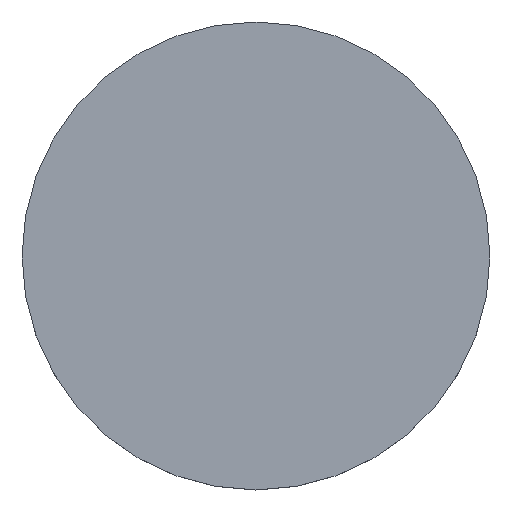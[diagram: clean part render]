
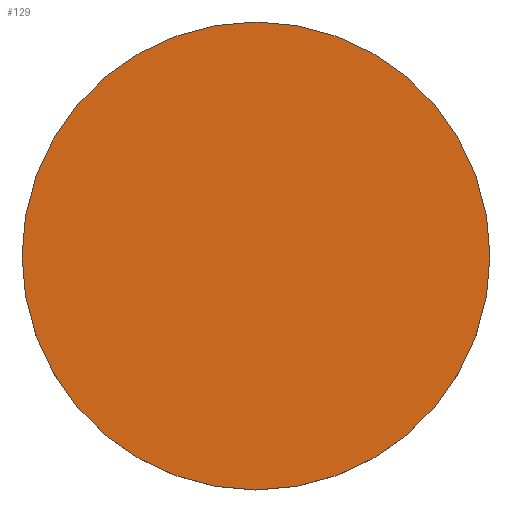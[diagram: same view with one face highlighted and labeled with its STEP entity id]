
A CAD part, top view. The second image highlights one B-rep face of the part: STEP entity #129.
In plain terms, the highlighted planar face has unit normal (0, 0, 1).
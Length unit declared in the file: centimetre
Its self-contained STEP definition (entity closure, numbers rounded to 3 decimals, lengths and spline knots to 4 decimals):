
#112=VERTEX_POINT('',#292);
#114=EDGE_CURVE('',#112,#112,#172,.T.);
#118=ORIENTED_EDGE('',*,*,#114,.F.);
#122=EDGE_LOOP('',(#118));
#126=FACE_BOUND('',#122,.T.);
#129=ADVANCED_FACE('',(#126),#204,.T.);
#172=CIRCLE('',#190,0.75);
#190=AXIS2_PLACEMENT_3D('',#291,#265,#266);
#192=AXIS2_PLACEMENT_3D('',#295,#269,$);
#204=PLANE('',#192);
#265=DIRECTION('',(0.,0.,-1.));
#266=DIRECTION('',(0.75,0.,0.));
#269=DIRECTION('',(0.,0.,1.));
#291=CARTESIAN_POINT('',(0.,0.,0.15));
#292=CARTESIAN_POINT('',(0.75,0.,0.15));
#295=CARTESIAN_POINT('',(0.,0.,0.15));
